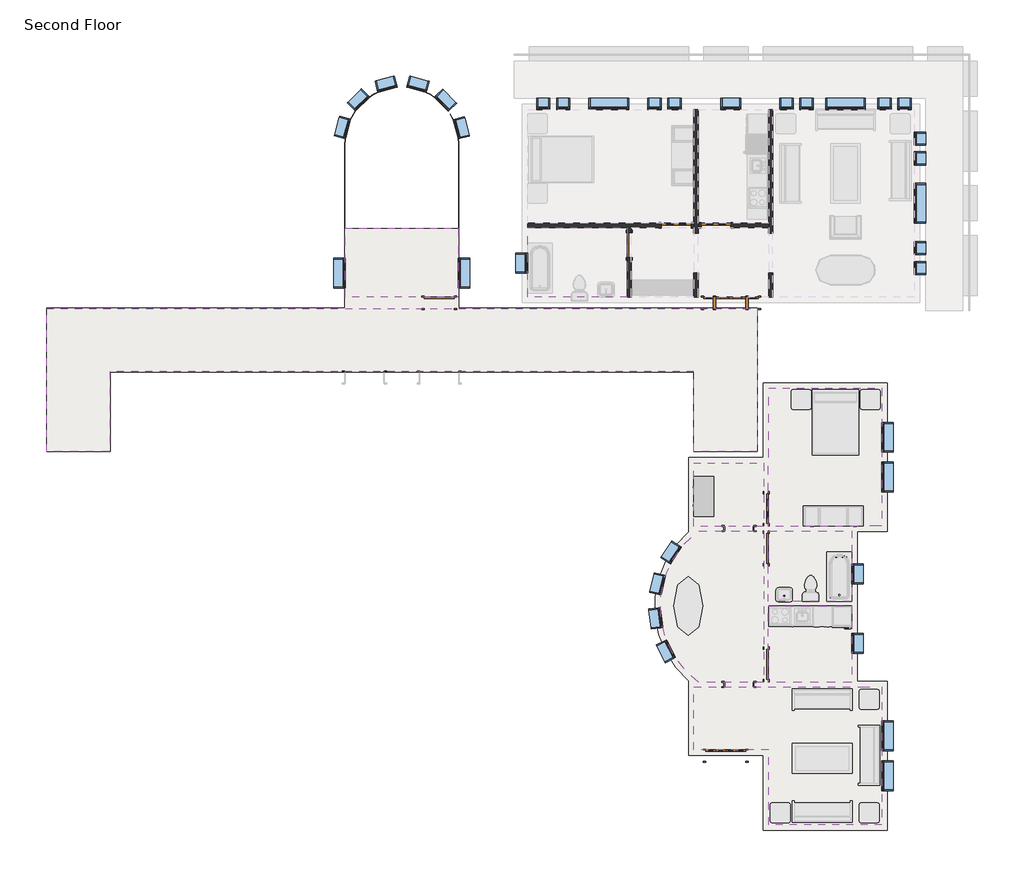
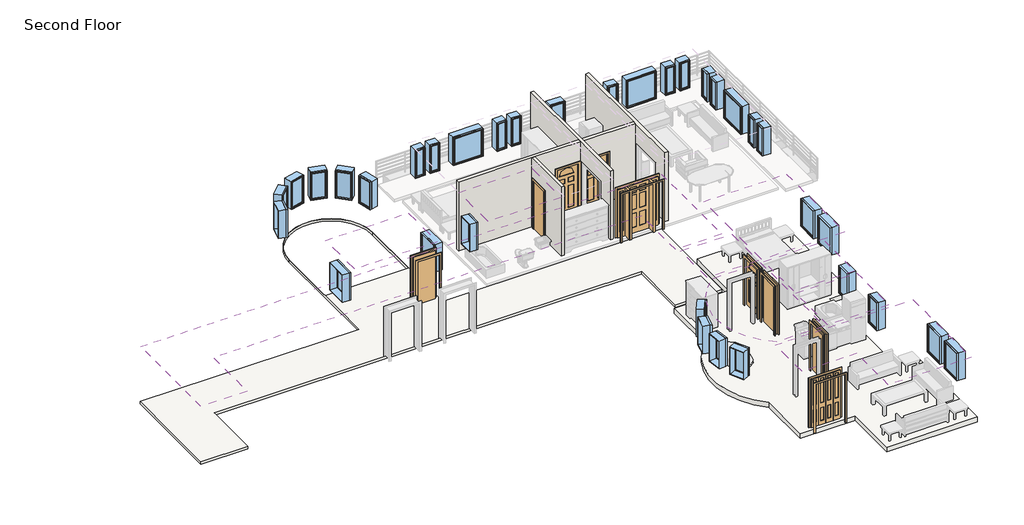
# One storey, part 1 of 2: 35 windows, 9 coverings, 9 doors, 5 walls, 2 slabs.
"""IFC4 building model written with IfcOpenShell, lengths in millimetres."""

from ifc_helpers import new_model, si_unit, point, frame, frame_2d, origin, place, context, project, spatial, polyline, circle_curve, trimmed, segment, composite_curve, outline, extrude, faceted_brep, transform, mapped, element, save
from components import m_bifold_4_panel_1220_x_2134mm_1a506c01, m_single_decorative_2_0915_x_2134mm_cc9a65e4, m_single_flush_0915_x_2134mm_ab9b6334, m_single_flush_0915_x_2134mm_08e0827a, door_829da954, door_2e3b4da2, door_4d6c7550, door_632be17d, door_dba5aa2e, window_da97879f, window_d61ef850, window_60baf983, window_15c49d37, window_6eb97611, m_fixed_0610_x_1220mm_2b91b687, m_fixed_0610_x_1220mm_9ad90eeb, m_fixed_0915_x_1220mm_ca90dcf7

model = new_model("IFC4")

# Units and contexts
model_context = context("Model", 3, world=origin())
ifc_project = project(units=[si_unit("LENGTHUNIT", "METRE", prefix="MILLI")], contexts=[model_context])

# Site, building, storey
site = spatial("IfcSite", under=ifc_project)
building = spatial("IfcBuilding", under=site)
storey = spatial("IfcBuildingStorey", under=building, Name="Second Floor", Elevation=3048.0)

# Coverings
placement = place(None, origin())
element("IfcCovering", 1, ObjectType="GWB on Mtl. Stud", at=placement, inside=storey, context=model_context, shape_type="SweptSolid", body=[
    extrude(outline(polyline([(-8169.2464563, 6660.0441867), (-8169.2464563, 4526.4441867), (-11217.2464563, 4526.4441867), (-11217.2464563, 6660.0441867), (-8169.2464563, 6660.0441867)])), frame((0.0, 0.0, 5638.8), z_axis=(0.0, 0.0, 1.0), x_axis=(1.0, 0.0, 0.0)), (0.0, 0.0, 1.0), 107.95),
])
element("IfcCovering", 2, ObjectType="GWB on Mtl. Stud", at=placement, inside=storey, context=model_context, shape_type="SweptSolid", body=[
    extrude(outline(polyline([(-13333.3839563, 4526.4441867), (-16790.9589563, 4526.4441867), (-16790.9589563, 6636.2316867), (-13333.3839563, 6636.2316867), (-13333.3839563, 4526.4441867)])), frame((0.0, 0.0, 5486.4), z_axis=(0.0, 0.0, 1.0), x_axis=(1.0, 0.0, 0.0)), (0.0, 0.0, 1.0), 107.95),
])
element("IfcCovering", 3, ObjectType="GWB on Mtl. Stud", at=placement, inside=storey, context=model_context, shape_type="SweptSolid", body=[
    extrude(outline(polyline([(-6122.9589563, -197.9558133), (-6122.9589563, 2240.4441867), (-24001.3839563, 2240.4441867), (-24001.3839563, -197.9558133), (-25934.9589563, -197.9558133), (-25934.9589563, 4174.0191867), (-4189.3839563, 4174.0191867), (-4189.3839563, -197.9558133), (-6122.9589563, -197.9558133)])), frame((0.0, 0.0, 5486.4), z_axis=(0.0, 0.0, 1.0), x_axis=(1.0, 0.0, 0.0)), (0.0, 0.0, 1.0), 107.95),
])
element("IfcCovering", 4, ObjectType="Plain", at=placement, inside=storey, context=model_context, shape_type="SweptSolid", body=[
    extrude(outline(polyline([(-3836.9589563, -374.1683133), (-3836.9589563, 1735.6191867), (-379.3839563, 1735.6191867), (-379.3839563, -2483.9558133), (-1117.5714563, -2483.9558133), (-1117.5714563, -2492.4183133), (-3845.4214563, -2492.4183133), (-3845.4214563, -374.1683133), (-3836.9589563, -374.1683133)])), frame((0.0, 0.0, 5639.0), z_axis=(0.0, 0.0, 1.0), x_axis=(1.0, 0.0, 0.0)), (0.0, 0.0, 1.0), 57.0),
])
element("IfcCovering", 5, ObjectType="Plain", at=placement, inside=storey, context=model_context, shape_type="SweptSolid", body=[
    extrude(outline(polyline([(-3845.4214563, -2627.9183133), (-1293.7839563, -2627.9183133), (-1293.7839563, -4793.7683133), (-3845.4214563, -4793.7683133), (-3845.4214563, -2627.9183133)])), frame((0.0, 0.0, 5639.0), z_axis=(0.0, 0.0, 1.0), x_axis=(1.0, 0.0, 0.0)), (0.0, 0.0, 1.0), 57.0),
])
element("IfcCovering", 6, ObjectType="Plain", at=placement, inside=storey, context=model_context, shape_type="SweptSolid", body=[
    extrude(outline(polyline([(-3845.4214563, -4929.2683133), (-1293.7839563, -4929.2683133), (-1293.7839563, -7264.4183133), (-3845.4214563, -7264.4183133), (-3845.4214563, -4929.2683133)])), frame((0.0, 0.0, 5639.0), z_axis=(0.0, 0.0, 1.0), x_axis=(1.0, 0.0, 0.0)), (0.0, 0.0, 1.0), 57.0),
])
element("IfcCovering", 7, ObjectType="Plain", at=placement, inside=storey, context=model_context, shape_type="SweptSolid", body=[
    extrude(outline(polyline([(-6122.9589563, -7399.9183133), (-1117.5714563, -7399.9183133), (-1117.5714563, -7408.3808133), (-379.3839563, -7408.3808133), (-379.3839563, -11627.9558133), (-3836.9589563, -11627.9558133), (-3836.9589563, -9341.9558133), (-6122.9589563, -9341.9558133), (-6122.9589563, -7399.9183133)])), frame((0.0, 0.0, 5639.0), z_axis=(0.0, 0.0, 1.0), x_axis=(1.0, 0.0, 0.0)), (0.0, 0.0, 1.0), 57.0),
])
element("IfcCovering", 8, ObjectType="Plain", at=placement, inside=storey, context=model_context, shape_type="SweptSolid", body=[
    extrude(outline(composite_curve([segment(trimmed(circle_curve(frame_2d((-4283.1089573, -4946.1683133)), 2871.7875), [point((-5978.0662968, -7264.4183133))], [point((-5978.0662968, -2627.9183133))], False, "CARTESIAN"), True, "CONTINUOUS"), segment(polyline([(-5978.0662968, -2627.9183133), (-3980.9214563, -2627.9183133), (-3980.9214563, -7264.4183133), (-5978.0662968, -7264.4183133)]), True, "CONTINUOUS")], self_intersect=False)), frame((0.0, 0.0, 5639.0), z_axis=(0.0, 0.0, 1.0), x_axis=(1.0, 0.0, 0.0)), (0.0, 0.0, 1.0), 57.0),
])
element("IfcCovering", 9, ObjectType="Plain", at=placement, inside=storey, context=model_context, shape_type="SweptSolid", body=[
    extrude(outline(polyline([(-6122.9589563, -2492.4183133), (-6122.9589563, -550.3808133), (-3980.9214563, -550.3808133), (-3980.9214563, -2492.4183133), (-6122.9589563, -2492.4183133)])), frame((0.0, 0.0, 5639.0), z_axis=(0.0, 0.0, 1.0), x_axis=(1.0, 0.0, 0.0)), (0.0, 0.0, 1.0), 57.0),
])

# Doors
m_bifold_4_panel_1220_x_2134mm_shape = m_bifold_4_panel_1220_x_2134mm_1a506c01(model_context)
element("IfcDoor", 10, ObjectType="M_Bifold-4 Panel : 1220 x 2134mm", at=placement, inside=storey, context=model_context, shape_type="MappedRepresentation", body=[
    mapped(m_bifold_4_panel_1220_x_2134mm_shape, transform((-5156.1714563, -9518.1683133, 3048.0), x_axis=(1.0, 0.0, 0.0), y_axis=(0.0, 1.0, 0.0), z_axis=(0.0, 0.0, 1.0))),
])
m_single_decorative_2_0915_x_2134mm_shape = m_single_decorative_2_0915_x_2134mm_cc9a65e4(model_context)
element("IfcDoor", 11, ObjectType="M_Single-Decorative 2 : 0915 x 2134mm", at=placement, inside=storey, context=model_context, shape_type="MappedRepresentation", body=[
    mapped(m_single_decorative_2_0915_x_2134mm_shape, transform((-3913.1714563, -1953.9183133, 3048.0), x_axis=(0.0, -1.0, 0.0), y_axis=(1.0, 0.0, 0.0), z_axis=(0.0, 0.0, 1.0))),
])
m_single_flush_0915_x_2134mm_shape = m_single_flush_0915_x_2134mm_ab9b6334(model_context)
element("IfcDoor", 12, ObjectType="M_Single-Flush : 0915 x 2134mm", at=placement, inside=storey, context=model_context, shape_type="MappedRepresentation", body=[
    mapped(m_single_flush_0915_x_2134mm_shape, transform((-3913.1714563, -3173.9183133, 3048.0), x_axis=(0.0, 1.0, 0.0), y_axis=(-1.0, 0.0, 0.0), z_axis=(0.0, 0.0, 1.0))),
])
m_single_flush_0915_x_2134mm_2_shape = m_single_flush_0915_x_2134mm_08e0827a(model_context)
element("IfcDoor", 13, ObjectType="M_Single-Flush : 0915 x 2134mm", at=placement, inside=storey, context=model_context, shape_type="MappedRepresentation", body=[
    mapped(m_single_flush_0915_x_2134mm_2_shape, transform((-3913.1714563, -6722.1683133, 3048.0), x_axis=(0.0, -1.0, 0.0), y_axis=(1.0, 0.0, 0.0), z_axis=(0.0, 0.0, 1.0))),
])
door_shape = door_829da954(model_context)
element("IfcDoor", 14, ObjectType="Single-Decorative 2 : 36\" x 84\"", at=placement, inside=storey, context=model_context, shape_type="MappedRepresentation", body=[
    mapped(door_shape, transform((-5449.8589563, 6723.5441867, 3048.0), x_axis=(-1.0, 0.0, 0.0), y_axis=(0.0, -1.0, 0.0), z_axis=(0.0, 0.0, 1.0))),
])
door_2_shape = door_2e3b4da2(model_context)
element("IfcDoor", 15, ObjectType="Single-Decorative 2 : 36\" x 84\"", at=placement, inside=storey, context=model_context, shape_type="MappedRepresentation", body=[
    mapped(door_2_shape, transform((-6669.0589563, 6723.5441867, 3048.0), x_axis=(1.0, 0.0, 0.0), y_axis=(0.0, 1.0, 0.0), z_axis=(0.0, 0.0, 1.0))),
])
door_3_shape = door_4d6c7550(model_context)
element("IfcDoor", 16, ObjectType="Single-Flush : 30\" x 84\"", at=placement, inside=storey, context=model_context, shape_type="MappedRepresentation", body=[
    mapped(door_3_shape, transform((-8105.7464563, 6113.9441867, 3048.0), x_axis=(0.0, 1.0, 0.0), y_axis=(-1.0, 0.0, 0.0), z_axis=(0.0, 0.0, 1.0))),
])
door_4_shape = door_632be17d(model_context)
element("IfcDoor", 17, ObjectType="Single-Flush : 36\" x 84\"", at=placement, inside=storey, context=model_context, shape_type="MappedRepresentation", body=[
    mapped(door_4_shape, transform((-13919.1714563, 4350.2316867, 3048.0), x_axis=(1.0, 0.0, 0.0), y_axis=(0.0, 1.0, 0.0), z_axis=(0.0, 0.0, 1.0))),
])
door_5_shape = door_dba5aa2e(model_context)
element("IfcDoor", 18, ObjectType="Single-Raised Panel with Sidelights : 36\" x 84\"", at=placement, inside=storey, context=model_context, shape_type="MappedRepresentation", body=[
    mapped(door_5_shape, transform((-4992.6589563, 4350.2316867, 3048.0), x_axis=(-1.0, 0.0, 0.0), y_axis=(0.0, -1.0, 0.0), z_axis=(0.0, 0.0, 1.0))),
])

# Slabs
element("IfcSlab", 19, ObjectType="160mm Concrete With 50mm Metal Deck", at=placement, inside=storey, context=model_context, shape_type="SweptSolid", body=[
    extrude(outline(composite_curve([segment(polyline([(-214.2839563, 1900.7191867), (-214.2839563, -2649.0558133), (-1128.6839563, -2649.0558133), (-1128.6839563, -7243.2808133), (-214.2839563, -7243.2808133), (-214.2839563, -11793.0558133), (-4002.0589563, -11793.0558133), (-4002.0589563, -9507.0558133), (-6288.0589563, -9507.0558133), (-6288.0589563, -7227.1464344)]), True, "CONTINUOUS"), segment(trimmed(circle_curve(frame_2d((-4283.1089573, -4946.1683133)), 3036.8875), [point((-6288.0589563, -7227.1464344))], [point((-6288.0589563, -2665.1901922))], False, "CARTESIAN"), True, "CONTINUOUS"), segment(polyline([(-6288.0589563, -2665.1901922), (-6288.0589563, -385.2808133), (-4002.0589563, -385.2808133), (-4002.0589563, 1900.7191867), (-214.2839563, 1900.7191867)]), True, "CONTINUOUS")], self_intersect=False)), frame((0.0, 0.0, 2838.0), z_axis=(0.0, 0.0, 1.0), x_axis=(1.0, 0.0, 0.0)), (0.0, 0.0, 1.0), 210.0),
])
element("IfcSlab", 20, ObjectType="LW Concrete on Metal Deck", at=placement, inside=storey, context=model_context, shape_type="SweptSolid", body=[
    extrude(outline(composite_curve([segment(polyline([(-13320.6839563, 9227.0316867), (-13320.6839563, 4186.7191867), (-4189.3839563, 4186.7191867), (-4189.3839563, -197.9558133), (-6135.6589563, -197.9558133), (-6135.6589563, 2227.7441867), (-23988.6839563, 2227.7441867), (-23988.6839563, -197.9558133), (-25934.9589563, -197.9558133), (-25934.9589563, 4186.7191867), (-16803.6589563, 4186.7191867), (-16803.6589563, 9227.0316867)]), True, "CONTINUOUS"), segment(trimmed(circle_curve(frame_2d((-15062.1714563, 9227.0316867)), 1741.4875), [point((-16803.6589563, 9227.0316867))], [point((-13320.6839563, 9227.0316867))], False, "CARTESIAN"), True, "CONTINUOUS")], self_intersect=False), holes=[composite_curve([segment(polyline([(-16790.9589563, 6636.2316867), (-13333.3839563, 6636.2316867), (-13333.3839563, 9227.0316867)]), True, "CONTINUOUS"), segment(trimmed(circle_curve(frame_2d((-15062.1714563, 9227.0316867)), 1728.7875), [point((-13333.3839563, 9227.0316867))], [point((-16790.9589563, 9227.0316867))], True, "CARTESIAN"), True, "CONTINUOUS"), segment(polyline([(-16790.9589563, 9227.0316867), (-16790.9589563, 6636.2316867)]), True, "CONTINUOUS")], self_intersect=False)]), frame((0.0, 0.0, 2943.225), z_axis=(0.0, 0.0, 1.0), x_axis=(1.0, 0.0, 0.0)), (0.0, 0.0, 1.0), 104.775),
])

# Walls
element("IfcWall", 21, ObjectType="Interior - 5\" Partition (2-hr)", at=placement, inside=storey, context=model_context, shape_type="Brep", body=[
    faceted_brep([(-3709.9589563, 10270.0191867, 3048.0), (-3709.9589563, 6483.8316867, 3048.0), (-3836.9589563, 6483.8316867, 3048.0), (-3836.9589563, 6660.0441867, 3048.0), (-3836.9589563, 6787.0441867, 3048.0), (-3836.9589563, 10270.0191867, 3048.0), (-3709.9589563, 5264.6316867, 3048.0), (-3709.9589563, 4526.4441867, 3048.0), (-3836.9589563, 4526.4441867, 3048.0), (-3836.9589563, 5264.6316867, 3048.0), (-3836.9589563, 10270.0191867, 6096.0), (-3836.9589563, 6787.0441867, 6096.0), (-3836.9589563, 6660.0441867, 6096.0), (-3836.9589563, 4526.4441867, 6096.0), (-3709.9589563, 4526.4441867, 6096.0), (-3709.9589563, 10270.0191867, 6096.0), (-3836.9589563, 6483.8316867, 5181.6), (-3836.9589563, 5264.6316867, 5181.6), (-3709.9589563, 6483.8316867, 5181.6), (-3709.9589563, 5264.6316867, 5181.6)], [[[0, 1, 2, 3, 4, 5]], [[6, 7, 8, 9]], [[10, 11, 12, 13, 14, 15]], [[5, 4, 3, 2, 16, 17, 9, 8, 13, 12, 11, 10]], [[18, 1, 0, 15, 14, 7, 6, 19]], [[5, 10, 15, 0]], [[13, 8, 7, 14]], [[9, 17, 19, 6]], [[16, 2, 1, 18]], [[17, 16, 18, 19]]]),
])
element("IfcWall", 22, ObjectType="Interior - 5\" Partition (2-hr)", at=placement, inside=storey, context=model_context, shape_type="Brep", body=[
    faceted_brep([(-6122.9589563, 4526.4441867, 3048.0), (-6122.9589563, 5264.6316867, 3048.0), (-5995.9589563, 5264.6316867, 3048.0), (-5995.9589563, 4526.4441867, 3048.0), (-6122.9589563, 6483.8316867, 3048.0), (-6122.9589563, 6660.0441867, 3048.0), (-6122.9589563, 6787.0441867, 3048.0), (-6122.9589563, 10270.0191867, 3048.0), (-5995.9589563, 10270.0191867, 3048.0), (-5995.9589563, 6787.0441867, 3048.0), (-5995.9589563, 6660.0441867, 3048.0), (-5995.9589563, 6483.8316867, 3048.0), (-6122.9589563, 10270.0191867, 6096.0), (-6122.9589563, 6787.0441867, 6096.0), (-6122.9589563, 6660.0441867, 6096.0), (-6122.9589563, 4526.4441867, 6096.0), (-5995.9589563, 4526.4441867, 6096.0), (-5995.9589563, 6660.0441867, 6096.0), (-5995.9589563, 6787.0441867, 6096.0), (-5995.9589563, 10270.0191867, 6096.0), (-6122.9589563, 5264.6316867, 5181.6), (-6122.9589563, 6483.8316867, 5181.6), (-5995.9589563, 5264.6316867, 5181.6), (-5995.9589563, 6483.8316867, 5181.6)], [[[0, 1, 2, 3]], [[4, 5, 6, 7, 8, 9, 10, 11]], [[12, 13, 14, 15, 16, 17, 18, 19]], [[20, 1, 0, 15, 14, 13, 12, 7, 6, 5, 4, 21]], [[3, 2, 22, 23, 11, 10, 9, 8, 19, 18, 17, 16]], [[7, 12, 19, 8]], [[15, 0, 3, 16]], [[11, 23, 21, 4]], [[22, 2, 1, 20]], [[23, 22, 20, 21]]]),
])
element("IfcWall", 23, ObjectType="Interior - 5\" Partition (2-hr)", at=placement, inside=storey, context=model_context, shape_type="Brep", body=[
    faceted_brep([(-6122.9589563, 6660.0441867, 3048.0), (-6211.8589563, 6660.0441867, 3048.0), (-6211.8589563, 6787.0441867, 3048.0), (-6122.9589563, 6787.0441867, 3048.0), (-7126.2589563, 6660.0441867, 3048.0), (-8042.2464563, 6660.0441867, 3048.0), (-8169.2464563, 6660.0441867, 3048.0), (-11217.2464563, 6660.0441867, 3048.0), (-11217.2464563, 6787.0441867, 3048.0), (-7126.2589563, 6787.0441867, 3048.0), (-11217.2464563, 6660.0441867, 6096.0), (-8169.2464563, 6660.0441867, 6096.0), (-8042.2464563, 6660.0441867, 6096.0), (-6122.9589563, 6660.0441867, 6096.0), (-6122.9589563, 6787.0441867, 6096.0), (-11217.2464563, 6787.0441867, 6096.0), (-6211.8589563, 6660.0441867, 5181.6), (-7126.2589563, 6660.0441867, 5181.6), (-6211.8589563, 6787.0441867, 5181.6), (-7126.2589563, 6787.0441867, 5181.6)], [[[0, 1, 2, 3]], [[4, 5, 6, 7, 8, 9]], [[10, 11, 12, 13, 14, 15]], [[16, 1, 0, 13, 12, 11, 10, 7, 6, 5, 4, 17]], [[3, 2, 18, 19, 9, 8, 15, 14]], [[13, 0, 3, 14]], [[7, 10, 15, 8]], [[18, 2, 1, 16]], [[19, 18, 16, 17]], [[9, 19, 17, 4]]]),
])
element("IfcWall", 24, ObjectType="Interior - 5\" Partition (2-hr)", at=placement, inside=storey, context=model_context, shape_type="SweptSolid", body=[
    extrude(outline(polyline([(6660.0441867, 3048.0), (6494.9441867, 3048.0), (6494.9441867, 5181.6), (5732.9441867, 5181.6), (5732.9441867, 3048.0), (4526.4441867, 3048.0), (4526.4441867, 6096.0), (6660.0441867, 6096.0), (6660.0441867, 3048.0)])), frame((-8169.2464563, 0.0, 0.0), z_axis=(1.0, 0.0, 0.0), x_axis=(0.0, 1.0, 0.0)), (0.0, 0.0, 1.0), 127.0),
])
element("IfcWall", 25, ObjectType="Interior - 5\" Partition (2-hr)", at=placement, inside=storey, context=model_context, shape_type="SweptSolid", body=[
    extrude(outline(polyline([(3048.0, -5995.9589563), (3048.0, -5907.0589563), (5181.6, -5907.0589563), (5181.6, -4992.6589563), (3048.0, -4992.6589563), (3048.0, -3836.9589563), (6096.0, -3836.9589563), (6096.0, -5995.9589563), (3048.0, -5995.9589563)])), frame((0.0, 6660.0441867, 0.0), z_axis=(0.0, 1.0, 0.0), x_axis=(0.0, 0.0, 1.0)), (0.0, 0.0, 1.0), 127.0),
])

# Windows
window_shape = window_da97879f(model_context)
element("IfcWindow", 26, ObjectType="Fixed : 16\" x 48\"", at=placement, inside=storey, context=model_context, shape_type="MappedRepresentation", body=[
    mapped(window_shape, transform((-10771.1589563, 10446.2316867, 3048.0), x_axis=(-1.0, 0.0, 0.0), y_axis=(0.0, -1.0, 0.0), z_axis=(0.0, 0.0, 1.0))),
])
element("IfcWindow", 27, ObjectType="Fixed : 16\" x 48\"", at=placement, inside=storey, context=model_context, shape_type="MappedRepresentation", body=[
    mapped(window_shape, transform((-10161.5589563, 10446.2316867, 3048.0), x_axis=(-1.0, 0.0, 0.0), y_axis=(0.0, -1.0, 0.0), z_axis=(0.0, 0.0, 1.0))),
])
element("IfcWindow", 28, ObjectType="Fixed : 16\" x 48\"", at=placement, inside=storey, context=model_context, shape_type="MappedRepresentation", body=[
    mapped(window_shape, transform((-3328.9589563, 10446.2316867, 3048.0), x_axis=(-1.0, 0.0, 0.0), y_axis=(0.0, -1.0, 0.0), z_axis=(0.0, 0.0, 1.0))),
])
element("IfcWindow", 29, ObjectType="Fixed : 16\" x 48\"", at=placement, inside=storey, context=model_context, shape_type="MappedRepresentation", body=[
    mapped(window_shape, transform((-2719.3589563, 10446.2316867, 3048.0), x_axis=(-1.0, 0.0, 0.0), y_axis=(0.0, -1.0, 0.0), z_axis=(0.0, 0.0, 1.0))),
])
element("IfcWindow", 30, ObjectType="Fixed : 16\" x 48\"", at=placement, inside=storey, context=model_context, shape_type="MappedRepresentation", body=[
    mapped(window_shape, transform((798.5410437, 9417.5316867, 3048.0), x_axis=(0.0, 1.0, 0.0), y_axis=(-1.0, 0.0, 0.0), z_axis=(0.0, 0.0, 1.0))),
])
element("IfcWindow", 31, ObjectType="Fixed : 16\" x 48\"", at=placement, inside=storey, context=model_context, shape_type="MappedRepresentation", body=[
    mapped(window_shape, transform((798.5410437, 8807.9316867, 3048.0), x_axis=(0.0, 1.0, 0.0), y_axis=(-1.0, 0.0, 0.0), z_axis=(0.0, 0.0, 1.0))),
])
window_2_shape = window_d61ef850(model_context)
element("IfcWindow", 32, ObjectType="Fixed : 16\" x 48\"", at=placement, inside=storey, context=model_context, shape_type="MappedRepresentation", body=[
    mapped(window_2_shape, transform((-6681.7589563, 10446.2316867, 3048.0), x_axis=(1.0, 0.0, 0.0), y_axis=(0.0, 1.0, 0.0), z_axis=(0.0, 0.0, 1.0))),
])
element("IfcWindow", 33, ObjectType="Fixed : 16\" x 48\"", at=placement, inside=storey, context=model_context, shape_type="MappedRepresentation", body=[
    mapped(window_2_shape, transform((-7291.3589563, 10446.2316867, 3048.0), x_axis=(1.0, 0.0, 0.0), y_axis=(0.0, 1.0, 0.0), z_axis=(0.0, 0.0, 1.0))),
])
element("IfcWindow", 34, ObjectType="Fixed : 16\" x 48\"", at=placement, inside=storey, context=model_context, shape_type="MappedRepresentation", body=[
    mapped(window_2_shape, transform((354.0410437, 10446.2316867, 3048.0), x_axis=(1.0, 0.0, 0.0), y_axis=(0.0, 1.0, 0.0), z_axis=(0.0, 0.0, 1.0))),
])
element("IfcWindow", 35, ObjectType="Fixed : 16\" x 48\"", at=placement, inside=storey, context=model_context, shape_type="MappedRepresentation", body=[
    mapped(window_2_shape, transform((-255.5589563, 10446.2316867, 3048.0), x_axis=(1.0, 0.0, 0.0), y_axis=(0.0, 1.0, 0.0), z_axis=(0.0, 0.0, 1.0))),
])
element("IfcWindow", 36, ObjectType="Fixed : 16\" x 48\"", at=placement, inside=storey, context=model_context, shape_type="MappedRepresentation", body=[
    mapped(window_2_shape, transform((798.5410437, 5378.9316867, 3048.0), x_axis=(0.0, -1.0, 0.0), y_axis=(1.0, 0.0, 0.0), z_axis=(0.0, 0.0, 1.0))),
])
element("IfcWindow", 37, ObjectType="Fixed : 16\" x 48\"", at=placement, inside=storey, context=model_context, shape_type="MappedRepresentation", body=[
    mapped(window_2_shape, transform((798.5410437, 5988.5316867, 3048.0), x_axis=(0.0, -1.0, 0.0), y_axis=(1.0, 0.0, 0.0), z_axis=(0.0, 0.0, 1.0))),
])
window_3_shape = window_60baf983(model_context)
element("IfcWindow", 38, ObjectType="Fixed : 24\" x 48\"", at=placement, inside=storey, context=model_context, shape_type="MappedRepresentation", body=[
    mapped(window_3_shape, transform((-5030.7589563, 10446.2316867, 3048.0), x_axis=(-1.0, 0.0, 0.0), y_axis=(0.0, -1.0, 0.0), z_axis=(0.0, 0.0, 1.0))),
])
element("IfcWindow", 39, ObjectType="Fixed : 24\" x 48\"", at=placement, inside=storey, context=model_context, shape_type="MappedRepresentation", body=[
    mapped(window_3_shape, transform((-11393.4589563, 5531.3316867, 3048.0), x_axis=(0.0, -1.0, 0.0), y_axis=(1.0, 0.0, 0.0), z_axis=(0.0, 0.0, 1.0))),
])
element("IfcWindow", 40, ObjectType="Fixed : 24\" x 48\"", at=placement, inside=storey, context=model_context, shape_type="MappedRepresentation", body=[
    mapped(window_3_shape, transform((-16889.064163, 9683.0417496, 3048.0), x_axis=(-0.26176149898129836, -0.9651325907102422, 0.0), y_axis=(0.9651325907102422, -0.26176149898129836, 0.0), z_axis=(0.0, 0.0, 1.0))),
])
element("IfcWindow", 41, ObjectType="Fixed : 24\" x 48\"", at=placement, inside=storey, context=model_context, shape_type="MappedRepresentation", body=[
    mapped(window_3_shape, transform((-16416.3019188, 10535.3943388, 3048.0), x_axis=(-0.7092584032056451, -0.7049485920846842, 0.0), y_axis=(0.7049485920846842, -0.7092584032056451, 0.0), z_axis=(0.0, 0.0, 1.0))),
])
element("IfcWindow", 42, ObjectType="Fixed : 24\" x 48\"", at=placement, inside=storey, context=model_context, shape_type="MappedRepresentation", body=[
    mapped(window_3_shape, transform((-15580.7015108, 11037.1722121, 3048.0), x_axis=(-0.9667100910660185, -0.25587418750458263, 0.0), y_axis=(0.25587418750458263, -0.9667100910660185, 0.0), z_axis=(0.0, 0.0, 1.0))),
])
element("IfcWindow", 43, ObjectType="Fixed : 24\" x 48\"", at=placement, inside=storey, context=model_context, shape_type="MappedRepresentation", body=[
    mapped(window_3_shape, transform((-14606.1613934, 11053.9243933, 3048.0), x_axis=(-0.9651325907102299, 0.2617614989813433, 0.0), y_axis=(-0.2617614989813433, -0.9651325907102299, 0.0), z_axis=(0.0, 0.0, 1.0))),
])
element("IfcWindow", 44, ObjectType="Fixed : 24\" x 48\"", at=placement, inside=storey, context=model_context, shape_type="MappedRepresentation", body=[
    mapped(window_3_shape, transform((-13753.8088042, 10581.1621492, 3048.0), x_axis=(-0.7049485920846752, 0.7092584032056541, 0.0), y_axis=(-0.7092584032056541, -0.7049485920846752, 0.0), z_axis=(0.0, 0.0, 1.0))),
])
element("IfcWindow", 45, ObjectType="Fixed : 24\" x 48\"", at=placement, inside=storey, context=model_context, shape_type="MappedRepresentation", body=[
    mapped(window_3_shape, transform((-13252.0309309, 9745.5617412, 3048.0), x_axis=(-0.25587418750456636, 0.9667100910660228, 0.0), y_axis=(-0.9667100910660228, -0.25587418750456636, 0.0), z_axis=(0.0, 0.0, 1.0))),
])
window_4_shape = window_15c49d37(model_context)
element("IfcWindow", 46, ObjectType="Fixed : 36\" x 48\"", at=placement, inside=storey, context=model_context, shape_type="MappedRepresentation", body=[
    mapped(window_4_shape, transform((-16967.1714563, 5226.5316867, 3048.0), x_axis=(0.0, -1.0, 0.0), y_axis=(1.0, 0.0, 0.0), z_axis=(0.0, 0.0, 1.0))),
])
element("IfcWindow", 47, ObjectType="Fixed : 36\" x 48\"", at=placement, inside=storey, context=model_context, shape_type="MappedRepresentation", body=[
    mapped(window_4_shape, transform((-13157.1714563, 5302.7316867, 3048.0), x_axis=(0.0, 1.0, 0.0), y_axis=(-1.0, 0.0, 0.0), z_axis=(0.0, 0.0, 1.0))),
])
window_5_shape = window_6eb97611(model_context)
element("IfcWindow", 48, ObjectType="Fixed : 48\" x 48\"", at=placement, inside=storey, context=model_context, shape_type="MappedRepresentation", body=[
    mapped(window_5_shape, transform((-8764.5589563, 10446.2316867, 3048.0), x_axis=(-1.0, 0.0, 0.0), y_axis=(0.0, -1.0, 0.0), z_axis=(0.0, 0.0, 1.0))),
])
element("IfcWindow", 49, ObjectType="Fixed : 48\" x 48\"", at=placement, inside=storey, context=model_context, shape_type="MappedRepresentation", body=[
    mapped(window_5_shape, transform((-1525.5589563, 10446.2316867, 3048.0), x_axis=(-1.0, 0.0, 0.0), y_axis=(0.0, -1.0, 0.0), z_axis=(0.0, 0.0, 1.0))),
])
element("IfcWindow", 50, ObjectType="Fixed : 48\" x 48\"", at=placement, inside=storey, context=model_context, shape_type="MappedRepresentation", body=[
    mapped(window_5_shape, transform((798.5410437, 7436.3316867, 3048.0), x_axis=(0.0, 1.0, 0.0), y_axis=(-1.0, 0.0, 0.0), z_axis=(0.0, 0.0, 1.0))),
])
m_fixed_0610_x_1220mm_shape = m_fixed_0610_x_1220mm_2b91b687(model_context)
element("IfcWindow", 51, ObjectType="M_Fixed : 0610 x 1220mm", at=placement, inside=storey, context=model_context, shape_type="MappedRepresentation", body=[
    mapped(m_fixed_0610_x_1220mm_shape, transform((-1104.5714563, -3947.1183133, 3048.0), x_axis=(0.0, 1.0, 0.0), y_axis=(-1.0, 0.0, 0.0), z_axis=(0.0, 0.0, 1.0))),
])
element("IfcWindow", 52, ObjectType="M_Fixed : 0610 x 1220mm", at=placement, inside=storey, context=model_context, shape_type="MappedRepresentation", body=[
    mapped(m_fixed_0610_x_1220mm_shape, transform((-1104.5714563, -6080.7183133, 3048.0), x_axis=(0.0, 1.0, 0.0), y_axis=(-1.0, 0.0, 0.0), z_axis=(0.0, 0.0, 1.0))),
])
element("IfcWindow", 53, ObjectType="M_Fixed : 0610 x 1220mm", at=placement, inside=storey, context=model_context, shape_type="MappedRepresentation", body=[
    mapped(m_fixed_0610_x_1220mm_shape, transform((-6832.8777071, -3282.0683061, 3048.0), x_axis=(-0.5465459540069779, -0.8374291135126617, 0.0), y_axis=(0.8374291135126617, -0.5465459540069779, 0.0), z_axis=(0.0, 0.0, 1.0))),
])
element("IfcWindow", 54, ObjectType="M_Fixed : 0610 x 1220mm", at=placement, inside=storey, context=model_context, shape_type="MappedRepresentation", body=[
    mapped(m_fixed_0610_x_1220mm_shape, transform((-7248.2635591, -4254.4980895, 3048.0), x_axis=(-0.22716757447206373, -0.9738556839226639, 0.0), y_axis=(0.9738556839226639, -0.22716757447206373, 0.0), z_axis=(0.0, 0.0, 1.0))),
])
m_fixed_0610_x_1220mm_2_shape = m_fixed_0610_x_1220mm_9ad90eeb(model_context)
element("IfcWindow", 55, ObjectType="M_Fixed : 0610 x 1220mm", at=placement, inside=storey, context=model_context, shape_type="MappedRepresentation", body=[
    mapped(m_fixed_0610_x_1220mm_2_shape, transform((-6999.1462129, -6322.2828208, 3048.0), x_axis=(-0.4519619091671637, 0.8920372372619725, 0.0), y_axis=(-0.8920372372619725, -0.4519619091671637, 0.0), z_axis=(0.0, 0.0, 1.0))),
])
element("IfcWindow", 56, ObjectType="M_Fixed : 0610 x 1220mm", at=placement, inside=storey, context=model_context, shape_type="MappedRepresentation", body=[
    mapped(m_fixed_0610_x_1220mm_2_shape, transform((-7306.0080052, -5310.3535099, 3048.0), x_axis=(-0.11961056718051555, 0.9928208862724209, 0.0), y_axis=(-0.9928208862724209, -0.11961056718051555, 0.0), z_axis=(0.0, 0.0, 1.0))),
])
m_fixed_0915_x_1220mm_shape = m_fixed_0915_x_1220mm_ca90dcf7(model_context)
element("IfcWindow", 57, ObjectType="M_Fixed : 0915 x 1220mm", at=placement, inside=storey, context=model_context, shape_type="MappedRepresentation", body=[
    mapped(m_fixed_0915_x_1220mm_shape, transform((-190.1714563, 235.4316867, 3048.0), x_axis=(0.0, 1.0, 0.0), y_axis=(-1.0, 0.0, 0.0), z_axis=(0.0, 0.0, 1.0))),
])
element("IfcWindow", 58, ObjectType="M_Fixed : 0915 x 1220mm", at=placement, inside=storey, context=model_context, shape_type="MappedRepresentation", body=[
    mapped(m_fixed_0915_x_1220mm_shape, transform((-190.1714563, -983.7683133, 3048.0), x_axis=(0.0, 1.0, 0.0), y_axis=(-1.0, 0.0, 0.0), z_axis=(0.0, 0.0, 1.0))),
])
element("IfcWindow", 59, ObjectType="M_Fixed : 0915 x 1220mm", at=placement, inside=storey, context=model_context, shape_type="MappedRepresentation", body=[
    mapped(m_fixed_0915_x_1220mm_shape, transform((-190.1714563, -8908.5683133, 3048.0), x_axis=(0.0, 1.0, 0.0), y_axis=(-1.0, 0.0, 0.0), z_axis=(0.0, 0.0, 1.0))),
])
element("IfcWindow", 60, ObjectType="M_Fixed : 0915 x 1220mm", at=placement, inside=storey, context=model_context, shape_type="MappedRepresentation", body=[
    mapped(m_fixed_0915_x_1220mm_shape, transform((-190.1714563, -10127.7683133, 3048.0), x_axis=(0.0, 1.0, 0.0), y_axis=(-1.0, 0.0, 0.0), z_axis=(0.0, 0.0, 1.0))),
])

save(model, "model.ifc")
